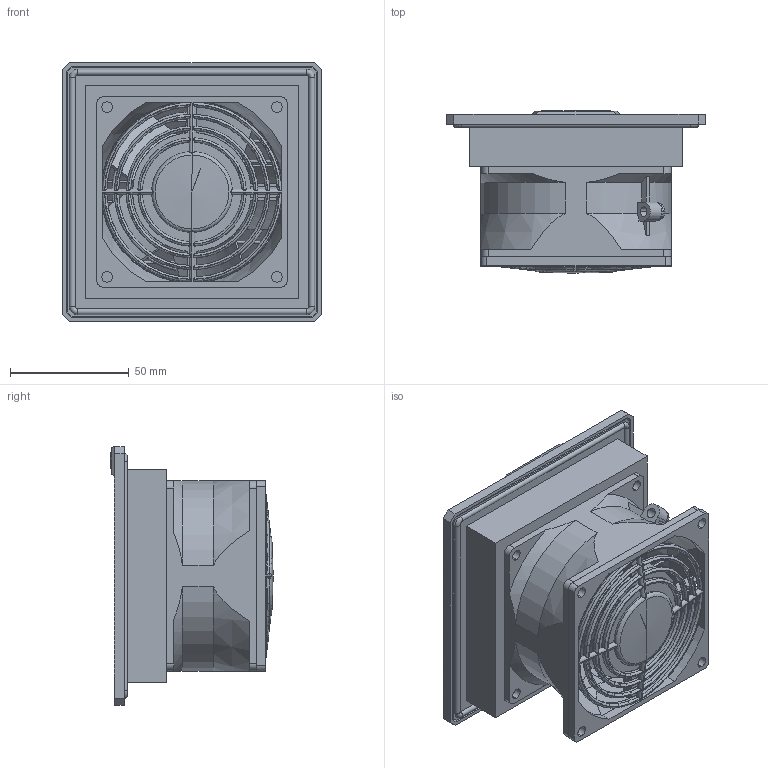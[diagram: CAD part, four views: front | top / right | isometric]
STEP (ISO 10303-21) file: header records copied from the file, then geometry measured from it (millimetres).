
FILE_DESCRIPTION (( 'STEP AP214' ), '1' );
FILE_NAME ('PF 11000.STEP', '2007-05-30T09:21:46', ( 'Pfannenberg' ), ( 'Pfannenberg Group' ), 'SwSTEP 2.0', 'SolidWorks 2007', '' );
FILE_SCHEMA (( 'AUTOMOTIVE_DESIGN' ));
Length unit declared in the file: millimetre
Products named in the file (6): 30162-013_Standard; cover PF1x_Standard; housing PF1x_Standard; fan Serie 8000 N_010051710  8550 N; safty guard PF 1x_Standard; PF 11000
Assembly tree (5 placements, depth 2):
  PF 11000
    safty guard PF 1x_Standard
    fan Serie 8000 N_010051710  8550 N
    30162-013_Standard
    cover PF1x_Standard
    housing PF1x_Standard
Bounding box: 109 x 68.34 x 109 mm (x, y, z)
Volume: 154923.4 mm3; surface area: 121088.6 mm2
Topology: 6 solids, 6 shells, 1448 faces, 4090 edges, 2628 vertices
Faces by surface type: plane 680, cylinder 417, bspline 238, torus 92, cone 21
Entity records: 60428 total; most frequent: CARTESIAN_POINT 25244, ORIENTED_EDGE 8172, DIRECTION 5920, EDGE_CURVE 4086, VERTEX_POINT 2628, VECTOR 2024, LINE 2024, AXIS2_PLACEMENT_3D 1948
